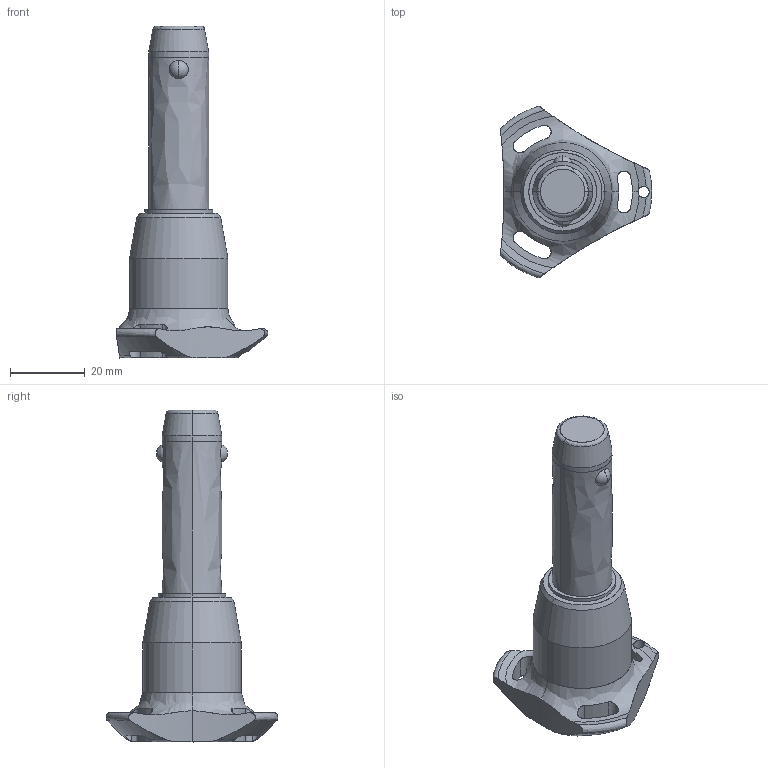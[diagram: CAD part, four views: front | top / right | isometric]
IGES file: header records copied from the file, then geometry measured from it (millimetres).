
Start section: SolidWorks IGES file using analytic representation for surfaces
Global section: file name: C:\Users\ianosborn\Desktop\QR1736_v2\QR1736_v2_20251115_IGES\QR1736.M16-035-T.igs; native system: SolidWorks 2019; preprocessor: SolidWorks 2019; author: IanOsborn; date: 251113.120558; units: millimetre
Bounding box: 40.5 x 45.88 x 88.7 mm (x, y, z)
Surface area: 8418.2 mm2 (no closed solid volume)
Topology: 0 solids, 0 shells, 68 faces, 1451 edges, 1447 vertices
Faces by surface type: revolution 52, bspline 16
